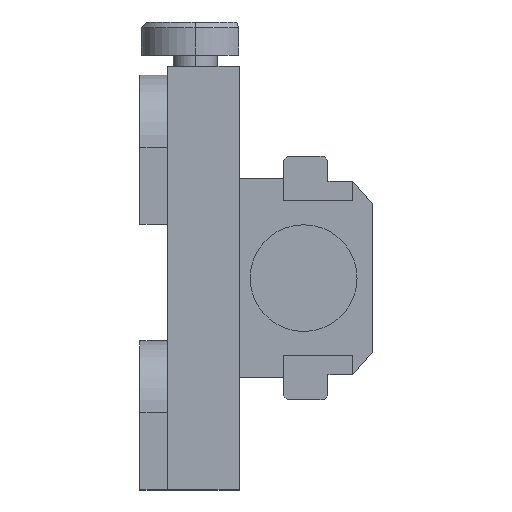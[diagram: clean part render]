
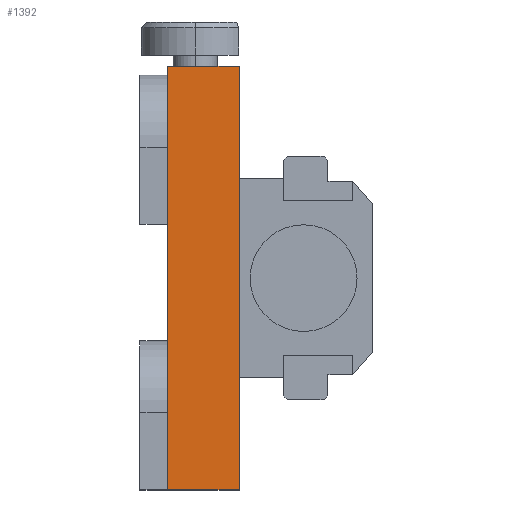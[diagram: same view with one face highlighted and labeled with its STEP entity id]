
A CAD part, left-side view. The second image highlights one B-rep face of the part: STEP entity #1392.
In plain terms, the highlighted planar face has unit normal (-1, 0, 0) as drawn and (0, 0, -1) by its records, which use the part's own axes.
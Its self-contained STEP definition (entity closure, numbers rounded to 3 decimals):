
#5 = LINE ( 'NONE', #2096, #1345 ) ;
#94 = FACE_OUTER_BOUND ( 'NONE', #1033, .T. ) ;
#104 = DIRECTION ( 'NONE',  ( -1., 0., 0. ) ) ;
#114 = CARTESIAN_POINT ( 'NONE',  ( 38.3, 24.615, -28.5 ) ) ;
#168 = EDGE_CURVE ( 'NONE', #489, #1987, #1388, .T. ) ;
#254 = LINE ( 'NONE', #516, #1025 ) ;
#330 = DIRECTION ( 'NONE',  ( 0., 1., 0. ) ) ;
#357 = VERTEX_POINT ( 'NONE', #2235 ) ;
#489 = VERTEX_POINT ( 'NONE', #2290 ) ;
#516 = CARTESIAN_POINT ( 'NONE',  ( 38.3, 11.65, -28.5 ) ) ;
#904 = VERTEX_POINT ( 'NONE', #2339 ) ;
#945 = CARTESIAN_POINT ( 'NONE',  ( 38.3, 11.65, -28.5 ) ) ;
#1025 = VECTOR ( 'NONE', #330, 1000. ) ;
#1033 = EDGE_LOOP ( 'NONE', ( #2022, #1828, #2130, #1600 ) ) ;
#1166 = CARTESIAN_POINT ( 'NONE',  ( -38.3, 24.615, -28.5 ) ) ;
#1228 = EDGE_CURVE ( 'NONE', #357, #489, #254, .T. ) ;
#1345 = VECTOR ( 'NONE', #2157, 1000. ) ;
#1388 = LINE ( 'NONE', #114, #1418 ) ;
#1392 = ADVANCED_FACE ( 'NONE', ( #94 ), #2382, .F. ) ;
#1418 = VECTOR ( 'NONE', #104, 1000. ) ;
#1424 = EDGE_CURVE ( 'NONE', #357, #904, #5, .T. ) ;
#1600 = ORIENTED_EDGE ( 'NONE', *, *, #1424, .T. ) ;
#1781 = EDGE_CURVE ( 'NONE', #904, #1987, #2237, .T. ) ;
#1828 = ORIENTED_EDGE ( 'NONE', *, *, #168, .F. ) ;
#1860 = DIRECTION ( 'NONE',  ( 0., 1., 0. ) ) ;
#1963 = CARTESIAN_POINT ( 'NONE',  ( -38.3, 11.65, -28.5 ) ) ;
#1987 = VERTEX_POINT ( 'NONE', #1166 ) ;
#2022 = ORIENTED_EDGE ( 'NONE', *, *, #1781, .T. ) ;
#2096 = CARTESIAN_POINT ( 'NONE',  ( 38.3, 11.65, -28.5 ) ) ;
#2130 = ORIENTED_EDGE ( 'NONE', *, *, #1228, .F. ) ;
#2157 = DIRECTION ( 'NONE',  ( -1., 0., 0. ) ) ;
#2232 = VECTOR ( 'NONE', #1860, 1000. ) ;
#2235 = CARTESIAN_POINT ( 'NONE',  ( 38.3, 11.65, -28.5 ) ) ;
#2237 = LINE ( 'NONE', #1963, #2232 ) ;
#2290 = CARTESIAN_POINT ( 'NONE',  ( 38.3, 24.615, -28.5 ) ) ;
#2309 = AXIS2_PLACEMENT_3D ( 'NONE', #945, #2362, #2353 ) ;
#2339 = CARTESIAN_POINT ( 'NONE',  ( -38.3, 11.65, -28.5 ) ) ;
#2353 = DIRECTION ( 'NONE',  ( 1., 0., 0. ) ) ;
#2362 = DIRECTION ( 'NONE',  ( 0., 0., 1. ) ) ;
#2382 = PLANE ( 'NONE',  #2309 ) ;
